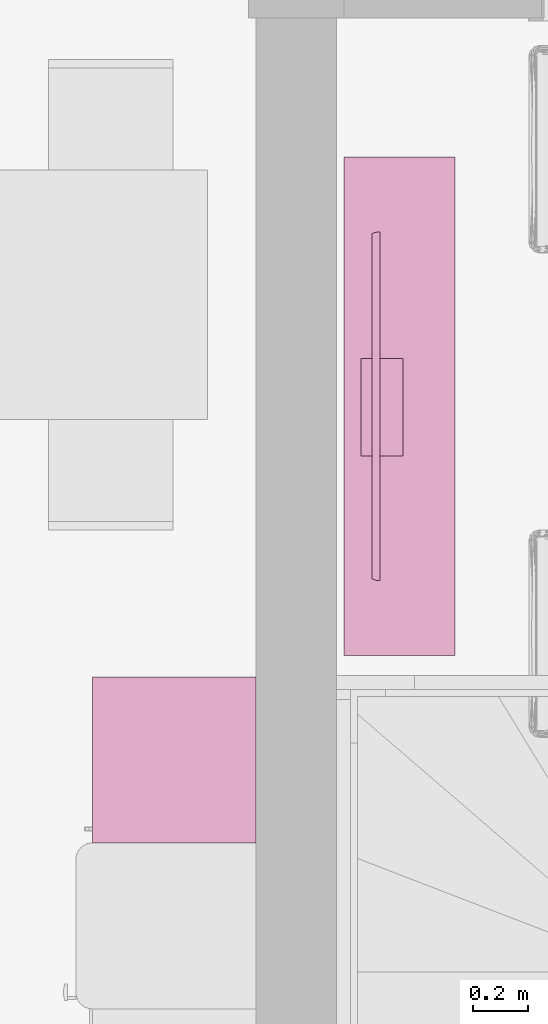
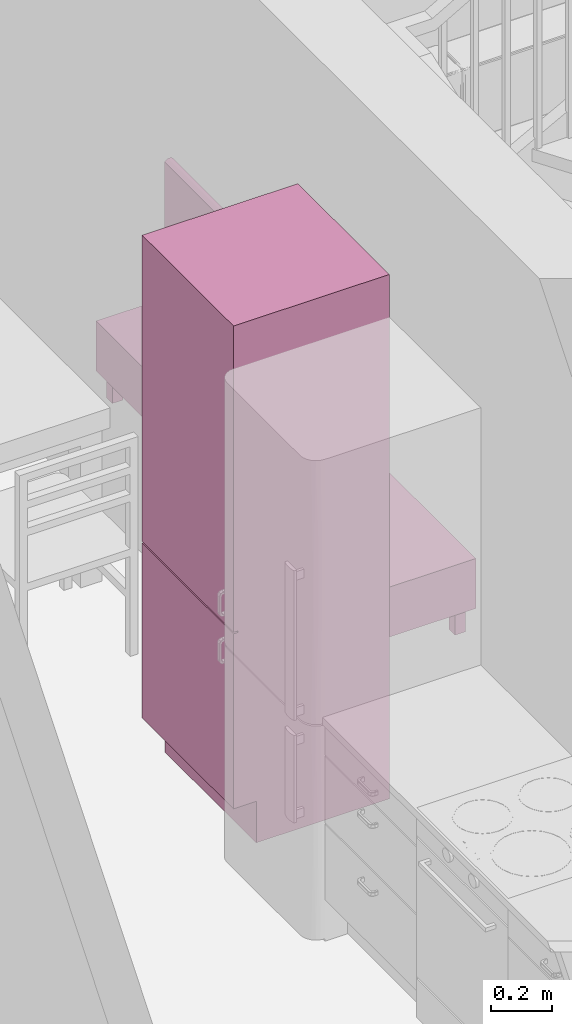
# One storey, part 38 of 65: 2 furnishings.
"""IFC2X3 building model written with IfcOpenShell, lengths in millimetres."""

from ifc_helpers import new_model, entity, si_unit, converted_unit, direction, frame, frame_2d, origin, origin_2d_with_axis, place, context, subcontext, project, spatial, rectangle, extrude, faceted_brep, source, transform, mapped, material, material_list, type_object, type_shapes, element, save


model = new_model("IFC2X3")

# Units and contexts
model_context = context("Model", 3, precision=0.01, world=origin(), true_north=direction((0.0, 1.0)))
body_context = subcontext(model_context, "Body", "Model", "MODEL_VIEW")
ifc_project = project(units=[si_unit("LENGTHUNIT", "METRE", prefix="MILLI"), si_unit("AREAUNIT", "SQUARE_METRE"), si_unit("VOLUMEUNIT", "CUBIC_METRE"), converted_unit("PLANEANGLEUNIT", "DEGREE", entity("IfcPlaneAngleMeasure", 0.017453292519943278), si_unit("PLANEANGLEUNIT", "RADIAN"), dimensions=[0, 0, 0, 0, 0, 0, 0])], contexts=[model_context])

# Site, building, storey, space
site_placement = place(None, origin())
site = spatial("IfcSite", under=ifc_project, at=site_placement, Name="Default", CompositionType="ELEMENT")
building_placement = place(site_placement, origin())
building = spatial("IfcBuilding", under=site, at=building_placement, CompositionType="ELEMENT")
storey_placement = place(building_placement, origin())
storey = spatial("IfcBuildingStorey", under=building, at=storey_placement, Name="Et. 1", CompositionType="ELEMENT", Elevation=0.0)
space_1_placement = place(storey_placement, origin())
space_1 = spatial("IfcSpace", under=storey, at=space_1_placement, Name="105", CompositionType="ELEMENT", InteriorOrExteriorSpace="INTERNAL")

# Furnishing
ifc_material_1 = material(Name="Focus - TV - Sort")
ifc_material_2 = material(Name="Focus - Metall - Krom")
ifc_material_3 = material(Name="Focus - Møbler - Hvit")
ifc_material_list_1 = material_list([ifc_material_1, ifc_material_2, ifc_material_3])
furniture_type_1 = type_object("IfcFurnitureType", Name="TV bord (1):TV bord 1800x400x300", AssemblyPlace="NOTDEFINED", material=ifc_material_list_1)
shared_shape_1 = source(origin(), body_context, "Body", "Brep", [
    faceted_brep([(535.1044252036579, 528.5550193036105, 322.4792366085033), (535.1044252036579, 526.6842377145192, 323.47298199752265), (535.1044252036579, 525.9363454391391, 325.45490298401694), (535.1044252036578, 525.9363454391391, 370.0), (535.1044252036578, 513.9363454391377, 370.0), (535.1044252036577, 474.47496908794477, 322.83260995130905), (535.1044252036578, 474.47496908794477, 300.0), (535.1044252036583, 625.9363454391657, 300.0), (535.1044252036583, 625.9363454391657, 310.0), (182.12411793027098, 474.47496908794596, 322.83260995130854), (182.12411793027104, 513.9363454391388, 370.0), (182.12411793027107, 525.9363454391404, 370.0), (182.12411793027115, 525.9363454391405, 325.4549029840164), (182.12411793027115, 526.6842377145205, 323.4729819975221), (182.12411793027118, 528.5550193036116, 322.47923660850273), (182.12411793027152, 625.9363454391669, 310.0), (182.12411793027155, 625.9363454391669, 300.0), (182.124117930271, 474.47496908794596, 300.0), (519.984899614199, 525.9363454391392, 325.454902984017), (504.86537605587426, 525.9363454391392, 325.45490298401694), (490.9818870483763, 525.9363454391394, 325.45490298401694), (468.92061695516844, 525.9363454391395, 325.4549029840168), (446.8593468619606, 525.9363454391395, 325.4549029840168), (424.7980767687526, 525.9363454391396, 325.45490298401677), (402.73680870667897, 525.9363454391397, 325.45490298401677), (380.67554064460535, 525.9363454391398, 325.45490298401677), (358.6142705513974, 525.9363454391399, 325.45490298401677), (344.73078154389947, 525.9363454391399, 325.4549029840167), (330.84729050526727, 525.9363454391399, 325.45490298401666), (316.963799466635, 525.9363454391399, 325.45490298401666), (303.0803104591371, 525.93634543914, 325.45490298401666), (287.9607869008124, 525.9363454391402, 325.45490298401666), (272.84126334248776, 525.9363454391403, 325.45490298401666), (257.72173978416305, 525.9363454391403, 325.4549029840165), (242.60221419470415, 525.9363454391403, 325.4549029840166), (227.48268860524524, 525.9363454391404, 325.4549029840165), (212.36316504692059, 525.9363454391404, 325.4549029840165), (197.24364148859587, 525.9363454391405, 325.4549029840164), (197.24364190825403, 528.5550193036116, 322.47923660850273), (212.36316595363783, 528.5550193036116, 322.4792366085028), (227.4826899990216, 528.5550193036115, 322.4792366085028), (242.60221397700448, 528.5550193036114, 322.4792366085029), (257.72173795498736, 528.5550193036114, 322.4792366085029), (272.8412620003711, 528.5550193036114, 322.4792366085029), (287.96078604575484, 528.5550193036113, 322.47923660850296), (303.08031002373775, 528.5550193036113, 322.47923660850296), (318.1998340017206, 528.5550193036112, 322.47923660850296), (333.31935804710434, 528.5550193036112, 322.479236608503), (348.43888209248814, 528.5550193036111, 322.479236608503), (363.558406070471, 528.5550193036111, 322.479236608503), (378.6779300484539, 528.5550193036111, 322.4792366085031), (393.7974540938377, 528.555019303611, 322.47923660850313), (408.9169781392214, 528.555019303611, 322.47923660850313), (424.03650211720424, 528.5550193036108, 322.47923660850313), (437.91999249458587, 528.5550193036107, 322.47923660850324), (451.80348287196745, 528.5550193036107, 322.47923660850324), (465.6869732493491, 528.5550193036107, 322.4792366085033), (479.57046362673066, 528.5550193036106, 322.4792366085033), (493.4539540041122, 528.5550193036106, 322.4792366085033), (507.3374443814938, 528.5550193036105, 322.4792366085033), (519.984901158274, 528.5550193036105, 322.47923660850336), (337.68066245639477, 526.6430406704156, 323.52080028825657), (224.27890068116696, 526.6842377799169, 323.47298192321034), (204.80340727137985, 526.6842378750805, 323.4729818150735), (302.46229687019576, 526.7687345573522, 323.3809061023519), (287.96078948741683, 526.6842377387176, 323.47298197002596), (519.6968558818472, 526.6842377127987, 323.47298199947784), (239.91619314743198, 526.6842377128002, 323.4729819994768), (413.76744661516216, 526.6599675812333, 323.5009060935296), (397.7173638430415, 526.6694903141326, 323.4898666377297), (371.11817041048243, 526.6334825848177, 323.5321906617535), (441.27558772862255, 526.8083203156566, 323.34030867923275), (481.02976280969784, 526.5444504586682, 323.6441466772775), (497.92363261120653, 526.7462141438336, 323.40470179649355), (316.9638042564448, 526.6842377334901, 323.47298197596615), (458.7452292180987, 526.6028547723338, 323.56947960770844), (257.72174274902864, 526.6842376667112, 323.4729820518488), (354.04763371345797, 526.7922136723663, 323.35664204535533), (272.84126613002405, 526.6581872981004, 323.5029820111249)], [[[0, 1, 2, 3, 4, 5, 6, 7, 8]], [[9, 10, 11, 12, 13, 14, 15, 16, 17]], [[4, 3, 11, 10]], [[7, 6, 17, 16]], [[3, 2, 18, 19, 20, 21, 22, 23, 24, 25, 26, 27, 28, 29, 30, 31, 32, 33, 34, 35, 36, 37, 12, 11]], [[5, 4, 10, 9]], [[6, 5, 9, 17]], [[8, 7, 16, 15]], [[0, 8, 15, 14, 38, 39, 40, 41, 42, 43, 44, 45, 46, 47, 48, 49, 50, 51, 52, 53, 54, 55, 56, 57, 58, 59, 60]], [[61, 48, 47]], [[62, 63, 36]], [[30, 64, 65]], [[13, 12, 37]], [[18, 2, 1, 66, 19]], [[34, 67, 35]], [[68, 52, 69]], [[70, 69, 50]], [[68, 23, 71]], [[72, 20, 73]], [[62, 39, 63]], [[19, 73, 20]], [[29, 28, 74, 30]], [[31, 30, 65]], [[75, 56, 55]], [[57, 56, 72, 58]], [[44, 43, 65]], [[42, 41, 76, 43]], [[62, 35, 67]], [[13, 37, 63]], [[66, 1, 0, 60, 59]], [[38, 14, 13]], [[41, 40, 67]], [[67, 34, 76]], [[73, 58, 72]], [[63, 39, 38]], [[63, 38, 13]], [[40, 39, 62]], [[67, 40, 62]], [[72, 21, 20]], [[19, 66, 73]], [[49, 77, 70]], [[75, 55, 71]], [[75, 72, 56]], [[21, 72, 75]], [[75, 22, 21]], [[22, 75, 71]], [[68, 24, 23]], [[54, 53, 71, 55]], [[23, 22, 71]], [[37, 36, 63]], [[69, 24, 68]], [[53, 68, 71]], [[70, 26, 25]], [[49, 70, 50]], [[69, 70, 25]], [[25, 24, 69]], [[50, 69, 52, 51]], [[26, 70, 77]], [[61, 28, 27]], [[77, 48, 61]], [[27, 26, 77]], [[77, 49, 48]], [[68, 53, 52]], [[73, 59, 58]], [[76, 33, 78]], [[65, 43, 78]], [[41, 67, 76]], [[46, 45, 74, 47]], [[62, 36, 35]], [[47, 74, 61]], [[73, 66, 59]], [[77, 61, 27]], [[28, 61, 74]], [[74, 45, 64]], [[33, 32, 31, 78]], [[74, 64, 30]], [[76, 34, 33]], [[45, 44, 64]], [[65, 64, 44]], [[76, 78, 43]], [[65, 78, 31]]]),
    faceted_brep([(-274.1123280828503, 543.9363454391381, 1074.9426906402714), (-254.11232808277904, 543.936345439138, 1054.9426906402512), (-254.11232808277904, 543.936345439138, 370.0), (963.4518429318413, 543.9363454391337, 1054.942690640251), (-274.1123280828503, 543.9363454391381, 350.0), (983.45184293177, 543.9363454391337, 1074.9426906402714), (963.4518429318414, 543.9363454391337, 370.0), (983.45184293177, 543.9363454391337, 350.0), (871.2987961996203, 513.9363454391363, 1069.700820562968), (764.3876072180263, 513.9363454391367, 1069.700820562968), (657.4764182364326, 513.9363454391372, 1069.700820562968), (550.5652415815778, 513.9363454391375, 1069.700820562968), (452.61750258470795, 513.9363454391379, 1069.700820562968), (354.6697512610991, 513.9363454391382, 1069.700820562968), (276.7272251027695, 513.9363454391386, 1069.700820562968), (198.78469894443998, 513.9363454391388, 1069.700820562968), (120.84217278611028, 513.936345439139, 1069.700820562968), (42.8996466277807, 513.9363454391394, 1069.700820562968), (-35.042879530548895, 513.9363454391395, 1069.7008205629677), (-112.98540568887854, 513.9363454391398, 1069.700820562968), (-161.959281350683, 513.93634543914, 1069.700820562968), (-268.870458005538, 513.9363454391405, 1069.7008205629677), (-268.87045800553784, 513.9363454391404, 962.7896420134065), (-268.87045800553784, 513.9363454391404, 855.8784560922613), (-268.87045800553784, 513.9363454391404, 782.864436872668), (-268.87045800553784, 513.9363454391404, 709.850410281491), (-268.87045800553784, 513.9363454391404, 619.8878077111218), (-268.87045800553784, 513.9363454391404, 529.9252051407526), (-268.87045800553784, 513.9363454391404, 456.9111859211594), (-268.870458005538, 513.9363454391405, 350.0), (978.2099728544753, 513.936345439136, 350.0), (978.2099728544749, 513.9363454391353, 456.91117949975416), (978.2099728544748, 513.9363454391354, 563.8223660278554), (978.2099728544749, 513.9363454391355, 670.7335525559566), (978.209972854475, 513.9363454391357, 777.6447320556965), (978.209972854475, 513.9363454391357, 850.658757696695), (978.209972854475, 513.9363454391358, 923.6727763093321), (978.209972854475, 513.936345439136, 1016.245227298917), (978.2099728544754, 513.936345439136, 1069.700820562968), (983.45184293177, 540.9363454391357, 1074.9426906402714), (-274.1123280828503, 540.9363454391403, 1074.9426906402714), (-274.11232808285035, 530.9363454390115, 1074.9426906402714), (-167.20113860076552, 530.9363454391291, 1074.9426906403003), (-72.97496770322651, 530.9363454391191, 1074.942690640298), (27.593712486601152, 530.9363454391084, 1074.9426906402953), (128.16239267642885, 530.9363454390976, 1074.942690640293), (235.07358215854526, 530.9363454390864, 1074.9426906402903), (288.52916869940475, 530.9363454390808, 1074.942690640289), (341.98475524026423, 530.9363454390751, 1074.9426906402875), (448.89592832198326, 530.9363454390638, 1074.942690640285), (555.8071178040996, 530.9363454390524, 1074.942690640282), (662.7183072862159, 530.936345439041, 1074.9426906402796), (769.6294803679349, 530.9363454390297, 1074.9426906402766), (876.5406534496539, 530.9363454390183, 1074.942690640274), (983.45184293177, 530.9363454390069, 1074.9426906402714), (983.45184293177, 540.9363454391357, 350.0), (983.4518429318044, 530.9363454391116, 968.0315073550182), (983.4518429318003, 530.9363454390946, 893.7070161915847), (983.4518429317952, 530.936345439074, 803.0891825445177), (983.4518429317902, 530.9363454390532, 712.4713488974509), (983.451842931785, 530.9363454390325, 621.8535152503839), (983.45184293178, 530.9363454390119, 531.2356744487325), (983.4518429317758, 530.9363454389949, 456.911183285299), (983.45184293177, 530.9363454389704, 350.0), (981.0831520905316, 522.3585671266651, 350.0), (-271.7436372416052, 522.3585671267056, 350.0), (-274.1123280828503, 530.9363454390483, 350.0), (-274.1123280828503, 540.9363454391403, 350.0), (-274.1123280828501, 530.9363454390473, 403.4555910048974), (-274.1123280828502, 530.9363454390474, 498.64897772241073), (-274.11232808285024, 530.9363454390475, 572.973466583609), (-274.11232808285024, 530.9363454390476, 647.2979554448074), (-274.1123280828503, 530.9363454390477, 754.2091446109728), (-274.1123280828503, 530.9363454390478, 861.120326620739), (-274.1123280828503, 530.9363454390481, 968.0315086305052), (-254.11232808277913, 540.9363454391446, 1054.9426906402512), (963.4518429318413, 540.9363454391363, 1054.942690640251), (963.4518429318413, 540.9363454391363, 370.0), (-254.1123280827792, 540.9363454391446, 370.0), (-271.6079802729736, 521.9209899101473, 561.039955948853), (-272.0942324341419, 523.5120302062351, 807.6647388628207), (-271.6838000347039, 522.1649725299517, 1000.2475796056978), (-271.52856035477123, 521.6669815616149, 493.4181930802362), (-271.74968537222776, 522.3781866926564, 731.6126583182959), (-271.4604584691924, 521.4504221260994, 664.869113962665), (-271.64314636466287, 522.0339695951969, 424.4548075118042), (-272.03175870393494, 523.3040303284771, 936.0688543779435), (-271.7208591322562, 522.2847625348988, 871.778613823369), (-271.7425576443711, 522.3550660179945, 1072.5729202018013), (-204.66446821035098, 523.3287969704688, 1072.8695772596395), (-137.47234325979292, 522.5092649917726, 1072.6203800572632), (908.7567322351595, 522.1649725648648, 1072.5141626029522), (833.778825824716, 522.5817361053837, 1072.6426227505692), (-62.80278335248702, 522.0049948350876, 1072.4644995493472), (159.81344423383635, 522.0845569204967, 1072.4892230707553), (226.4217047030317, 521.9934399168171, 1072.4609048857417), (315.25696952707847, 521.9504164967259, 1072.4475115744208), (981.0820724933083, 522.3550660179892, 1072.5729202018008), (80.1835543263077, 522.8422800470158, 1072.7222575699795), (501.59138676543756, 522.559214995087, 1072.6357149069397), (392.4883252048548, 522.952944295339, 1072.7559254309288), (3.928384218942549, 521.850551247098, 1072.4163685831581), (566.2823689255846, 522.2857797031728, 1072.5515358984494), (646.0692239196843, 522.4365461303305, 1072.5980210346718), (710.9320272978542, 522.0760981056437, 1072.4865968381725), (772.290516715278, 522.6133420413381, 1072.6523106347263), (981.0831519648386, 522.3585667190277, 494.0734241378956), (981.2237700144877, 522.8172109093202, 560.7957970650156), (981.2987228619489, 523.0638411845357, 930.8692618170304), (981.2065184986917, 522.7606600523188, 863.377909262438), (981.1904531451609, 522.7080691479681, 998.9721352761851), (980.8231085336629, 521.5238622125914, 630.1745518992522), (981.0101229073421, 522.122416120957, 696.939627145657), (981.0709396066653, 522.318980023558, 422.0367118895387), (981.0159296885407, 522.1411428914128, 798.4273735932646)], [[[0, 1, 2]], [[1, 0, 3]], [[2, 4, 0]], [[5, 3, 0]], [[3, 5, 6]], [[7, 6, 5]], [[6, 7, 4]], [[4, 2, 6]], [[8, 9, 10, 11, 12, 13, 14, 15, 16, 17, 18, 19, 20, 21, 22, 23, 24, 25, 26, 27, 28, 29, 30, 31, 32, 33, 34, 35, 36, 37, 38]], [[39, 5, 0, 40, 41, 42, 43, 44, 45, 46, 47, 48, 49, 50, 51, 52, 53, 54]], [[55, 7, 5, 39, 54, 56, 57, 58, 59, 60, 61, 62, 63]], [[4, 7, 55, 63, 64, 30, 29, 65, 66, 67]], [[40, 0, 4, 67, 66, 68, 69, 70, 71, 72, 73, 74, 41]], [[75, 76, 77, 78]], [[3, 76, 75, 1]], [[2, 1, 75, 78]], [[2, 78, 77, 6]], [[6, 77, 76, 3]], [[69, 79, 71, 70]], [[80, 73, 72]], [[41, 74, 81]], [[82, 28, 27]], [[83, 71, 84]], [[79, 82, 27]], [[82, 85, 28]], [[86, 73, 87]], [[41, 81, 88]], [[72, 83, 80]], [[82, 79, 69]], [[73, 80, 87]], [[81, 21, 88]], [[68, 66, 65]], [[29, 28, 85]], [[82, 69, 85]], [[85, 69, 68]], [[84, 26, 25]], [[68, 65, 85]], [[29, 85, 65]], [[27, 26, 79]], [[79, 26, 84]], [[83, 84, 25]], [[79, 84, 71]], [[83, 24, 80]], [[71, 83, 72]], [[86, 81, 74]], [[87, 80, 23]], [[23, 22, 87]], [[22, 81, 86]], [[24, 83, 25]], [[24, 23, 80]], [[21, 81, 22]], [[73, 86, 74]], [[22, 86, 87]], [[42, 89, 90]], [[54, 53, 91]], [[8, 91, 92]], [[18, 93, 19]], [[46, 45, 94]], [[95, 96, 47]], [[19, 90, 20]], [[54, 91, 97]], [[98, 16, 94]], [[99, 12, 11]], [[99, 49, 100]], [[18, 17, 101]], [[46, 94, 95]], [[18, 101, 93]], [[102, 99, 11]], [[103, 102, 10]], [[52, 51, 104]], [[92, 9, 8]], [[91, 38, 97]], [[21, 20, 89]], [[41, 88, 89]], [[90, 89, 20]], [[43, 42, 90]], [[41, 89, 42]], [[44, 101, 98]], [[101, 43, 93]], [[89, 88, 21]], [[12, 99, 100]], [[96, 100, 48]], [[98, 101, 17]], [[43, 101, 44]], [[16, 15, 94]], [[44, 98, 45]], [[98, 17, 16]], [[43, 90, 93]], [[19, 93, 90]], [[94, 15, 95]], [[98, 94, 45]], [[96, 48, 47]], [[46, 95, 47]], [[95, 15, 14]], [[96, 95, 14]], [[14, 13, 96]], [[100, 96, 13]], [[12, 100, 13]], [[49, 48, 100]], [[10, 104, 103]], [[50, 49, 99]], [[9, 92, 105]], [[9, 104, 10]], [[103, 104, 51]], [[51, 50, 103]], [[102, 50, 99]], [[92, 91, 53]], [[38, 91, 8]], [[53, 52, 92]], [[105, 52, 104]], [[10, 102, 11]], [[103, 50, 102]], [[9, 105, 104]], [[92, 52, 105]], [[106, 61, 107]], [[108, 109, 57]], [[61, 106, 62]], [[108, 110, 36]], [[97, 110, 54]], [[111, 60, 112]], [[97, 38, 37]], [[113, 106, 31]], [[56, 108, 57]], [[109, 108, 36]], [[106, 107, 32]], [[63, 62, 113]], [[30, 64, 113]], [[106, 113, 62]], [[36, 110, 37]], [[32, 31, 106]], [[30, 113, 31]], [[113, 64, 63]], [[108, 56, 110]], [[114, 112, 59]], [[109, 114, 58]], [[36, 35, 109]], [[54, 110, 56]], [[97, 37, 110]], [[114, 35, 34]], [[58, 57, 109]], [[61, 60, 107]], [[112, 33, 111]], [[111, 32, 107]], [[111, 107, 60]], [[112, 60, 59]], [[32, 111, 33]], [[114, 59, 58]], [[34, 33, 112]], [[35, 114, 109]], [[112, 114, 34]]]),
    faceted_brep([(1229.6697574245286, 438.9363454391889, 0.0), (1229.6697574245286, 478.9363454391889, 0.0), (1229.6697574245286, 478.9363454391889, 80.0), (1229.669757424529, 748.9363454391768, 80.0), (1229.669757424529, 748.9363454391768, 0.0), (1229.669757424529, 788.9363454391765, 0.0), (1229.669757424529, 788.9363454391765, 100.0), (1229.6697574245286, 438.9363454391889, 100.0), (1189.6697574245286, 438.936345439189, 0.0), (1189.6697574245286, 438.936345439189, 100.0), (1189.669757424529, 788.9363454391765, 100.0), (1189.669757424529, 788.9363454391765, 0.0), (1189.669757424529, 748.9363454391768, 0.0), (1189.669757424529, 748.9363454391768, 80.0), (1189.6697574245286, 478.936345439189, 80.0), (1189.6697574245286, 478.936345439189, 0.0)], [[[0, 1, 2, 3, 4, 5, 6, 7]], [[8, 9, 10, 11, 12, 13, 14, 15]], [[1, 0, 8, 15]], [[2, 1, 15, 14]], [[3, 2, 14, 13]], [[4, 3, 13, 12]], [[5, 4, 12, 11]], [[6, 5, 11, 10]], [[7, 6, 10, 9]], [[0, 7, 9, 8]]]),
    faceted_brep([(-480.33024257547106, 438.9363454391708, 0.0), (-480.330242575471, 478.93634543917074, 0.0), (-480.330242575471, 478.93634543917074, 80.0), (-480.33024257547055, 748.9363454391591, 80.0), (-480.33024257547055, 748.9363454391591, 0.0), (-480.3302425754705, 788.9363454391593, 0.0), (-480.3302425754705, 788.9363454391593, 100.0), (-480.33024257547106, 438.9363454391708, 100.0), (-520.3302425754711, 438.93634543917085, 0.0), (-520.3302425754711, 438.93634543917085, 100.0), (-520.3302425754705, 788.9363454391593, 100.0), (-520.3302425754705, 788.9363454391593, 0.0), (-520.3302425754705, 748.9363454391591, 0.0), (-520.3302425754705, 748.9363454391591, 80.0), (-520.330242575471, 478.93634543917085, 80.0), (-520.330242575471, 478.93634543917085, 0.0)], [[[0, 1, 2, 3, 4, 5, 6, 7]], [[8, 9, 10, 11, 12, 13, 14, 15]], [[1, 0, 8, 15]], [[2, 1, 15, 14]], [[3, 2, 14, 13]], [[4, 3, 13, 12]], [[5, 4, 12, 11]], [[6, 5, 11, 10]], [[7, 6, 10, 9]], [[0, 7, 9, 8]]]),
    faceted_brep([(1189.6697574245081, 478.9363454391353, 80.0), (-480.3302425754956, 478.9363454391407, 80.0), (-480.3302425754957, 478.9363454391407, 100.0), (1189.6697574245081, 478.9363454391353, 100.0), (1189.669757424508, 438.9363454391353, 80.0), (1189.669757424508, 438.9363454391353, 100.0), (-480.3302425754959, 438.9363454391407, 100.0), (-480.33024257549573, 438.9363454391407, 80.0)], [[[0, 1, 2, 3]], [[4, 5, 6, 7]], [[1, 0, 4, 7]], [[2, 1, 7, 6]], [[3, 2, 6, 5]], [[0, 3, 5, 4]]]),
    faceted_brep([(1189.6697574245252, 788.9363454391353, 80.0), (-480.33024257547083, 788.9363454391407, 80.0), (-480.3302425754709, 788.9363454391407, 100.0), (1189.6697574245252, 788.9363454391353, 100.0), (1189.6697574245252, 748.9363454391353, 80.0), (1189.6697574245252, 748.9363454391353, 100.0), (-480.330242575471, 748.9363454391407, 100.0), (-480.330242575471, 748.9363454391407, 80.0)], [[[0, 1, 2, 3]], [[4, 5, 6, 7]], [[1, 0, 4, 7]], [[2, 1, 7, 6]], [[3, 2, 6, 5]], [[0, 3, 5, 4]]]),
    faceted_brep([(658.003090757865, 813.9363454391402, 150.0), (628.003090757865, 813.9363454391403, 150.0), (628.003090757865, 813.9363454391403, 250.0), (658.003090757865, 813.9363454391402, 250.0), (658.0030907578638, 423.93634543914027, 150.0), (658.0030907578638, 423.93634543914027, 250.0), (628.0030907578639, 423.9363454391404, 250.0), (628.0030907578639, 423.9363454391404, 150.0)], [[[0, 1, 2, 3]], [[4, 5, 6, 7]], [[1, 0, 4, 7]], [[2, 1, 7, 6]], [[3, 2, 6, 5]], [[0, 3, 5, 4]]]),
    faceted_brep([(81.33642409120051, 813.9363454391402, 150.0), (51.33642409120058, 813.9363454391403, 150.0), (51.33642409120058, 813.9363454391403, 250.0), (81.33642409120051, 813.9363454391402, 250.0), (81.33642409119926, 423.93634543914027, 150.0), (81.33642409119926, 423.93634543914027, 250.0), (51.33642409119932, 423.9363454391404, 250.0), (51.33642409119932, 423.9363454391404, 150.0)], [[[0, 1, 2, 3]], [[4, 5, 6, 7]], [[1, 0, 4, 7]], [[2, 1, 7, 6]], [[3, 2, 6, 5]], [[0, 3, 5, 4]]]),
    faceted_brep([(1254.6697574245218, 813.9363454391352, 300.0), (1254.6697574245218, 813.9363454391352, 100.0), (-545.3302425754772, 813.936345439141, 100.0), (-545.3302425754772, 813.936345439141, 300.0), (1204.669757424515, 813.9363454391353, 150.0), (1204.669757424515, 813.9363454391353, 250.0), (-495.33024257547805, 813.9363454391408, 250.0), (-495.33024257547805, 813.9363454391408, 150.0), (1254.6697574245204, 413.9363454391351, 300.0), (-545.3302425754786, 413.93634543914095, 300.0), (-545.3302425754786, 413.93634543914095, 100.0), (1254.6697574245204, 413.9363454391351, 100.0), (1254.6697574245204, 423.93634543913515, 100.0), (-545.3302425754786, 423.93634543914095, 100.0), (-545.3302425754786, 423.93634543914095, 300.0), (1254.6697574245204, 423.93634543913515, 300.0), (1204.6697574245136, 423.9363454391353, 250.0), (-495.3302425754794, 423.93634543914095, 250.0), (-495.3302425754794, 423.93634543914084, 150.0), (1204.6697574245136, 423.9363454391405, 150.0)], [[[0, 1, 2, 3], [4, 5, 6, 7]], [[8, 9, 10, 11]], [[2, 1, 12, 11, 10, 13]], [[0, 3, 14, 9, 8, 15]], [[6, 5, 16, 17]], [[4, 7, 18, 19]], [[1, 0, 15, 8, 11, 12]], [[3, 2, 13, 10, 9, 14]], [[5, 4, 19, 16]], [[7, 6, 17, 18]], [[17, 16, 19, 18]]]),
])
type_shapes(furniture_type_1, [shared_shape_1])
furnishing_1_placement = place(space_1_placement, frame((15937.073241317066, 16687.91649189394, 0.0), z_axis=(0.0, 0.0, 1.0), x_axis=(0.0, -1.0, 0.0)))
element("IfcFurnishingElement", 1, at=furnishing_1_placement, inside=space_1, type_object=furniture_type_1, material=ifc_material_list_1, Name="TV bord (1):TV bord 1800x400x300", context=body_context, shape_type="MappedRepresentation", body=[
    mapped(shared_shape_1, transform((0.0, 0.0, 0.0), scale=1.0)),
])

# Space
space_2_placement = place(storey_placement, origin())
space_2 = spatial("IfcSpace", under=storey, at=space_2_placement, Name="101", CompositionType="ELEMENT", InteriorOrExteriorSpace="INTERNAL")

# Furnishing
ifc_material_4 = material(Name="Focus - Kjøkken - Front")
ifc_material_5 = material(Name="Focus - Kjøkken - Skapstamme")
ifc_material_list_2 = material_list([ifc_material_4, ifc_material_5])
furniture_type_2 = type_object("IfcFurnitureType", Name="Focus - Kjøkken - Høyskap 2 dører:600 mm", AssemblyPlace="NOTDEFINED", material=ifc_material_list_2)
shared_shape_2 = source(origin(), body_context, "Body", "SweptSolid", [
    extrude(rectangle(XDim=599.9999999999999, YDim=503.9999999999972, at=origin_2d_with_axis()), frame((-254.58506095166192, 499.81681120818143, 0.0), z_axis=(0.0, 0.0, 1.0), x_axis=(-1.0, 0.0, 0.0)), (0.0, 0.0, 1.0), 165.99999999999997),
    extrude(rectangle(XDim=16.000000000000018, YDim=600.0000000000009, at=frame_2d((-1.687538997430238e-14, 0.0), x_axis=(1.0, 0.0))), frame((-254.58506095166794, 169.81681120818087, 873.0), z_axis=(0.0, 0.0, 1.0), x_axis=(0.0, -1.0, 0.0)), (0.0, 0.0, 1.0), 1226.9999999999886),
    extrude(rectangle(XDim=16.000000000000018, YDim=600.0000000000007, at=frame_2d((-1.687538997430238e-14, -2.842170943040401e-14), x_axis=(1.0, 0.0))), frame((-254.585060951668, 169.81681120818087, 166.0), z_axis=(0.0, 0.0, 1.0), x_axis=(0.0, -1.0, 0.0)), (0.0, 0.0, 1.0), 701.0000000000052),
    extrude(rectangle(XDim=573.9999999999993, YDim=599.9999999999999, at=frame_2d((-2.842170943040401e-14, 0.0), x_axis=(1.0, 0.0))), frame((-254.5850609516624, 464.81681120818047, 166.0), z_axis=(0.0, 0.0, 1.0), x_axis=(0.0, 1.0, 0.0)), (0.0, 0.0, 1.0), 1934.0000000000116),
])
type_shapes(furniture_type_2, [shared_shape_2])
furnishing_2_placement = place(space_2_placement, frame((15280.192775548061, 14801.473658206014, 0.0), z_axis=(0.0, 0.0, 1.0), x_axis=(0.0, -1.0, 0.0)))
element("IfcFurnishingElement", 2, at=furnishing_2_placement, inside=space_2, type_object=furniture_type_2, material=ifc_material_list_2, Name="Focus - Kjøkken - Høyskap 2 dører:600 mm", context=body_context, shape_type="MappedRepresentation", body=[
    mapped(shared_shape_2, transform((0.0, 0.0, 0.0), scale=1.0)),
])

save(model, "model.ifc")
